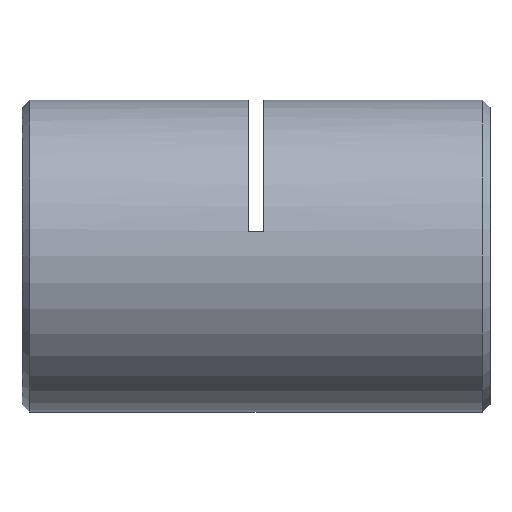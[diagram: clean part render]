
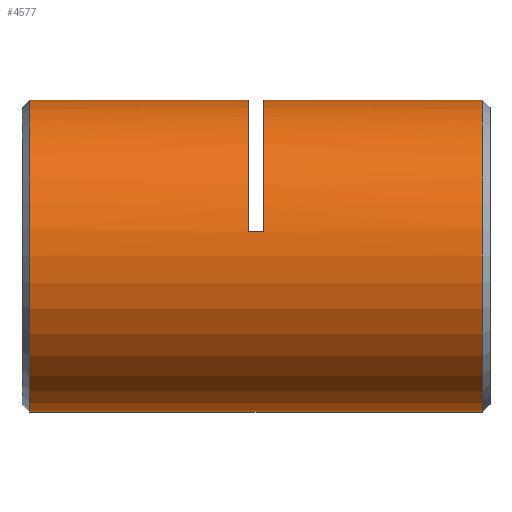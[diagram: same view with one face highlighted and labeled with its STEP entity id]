
A CAD part, left-side view. The second image highlights one B-rep face of the part: STEP entity #4577.
In plain terms, the highlighted cylindrical face has radius 8 mm (diameter 16 mm), a partial arc.
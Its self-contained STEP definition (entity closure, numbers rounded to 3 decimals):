
#2 = CARTESIAN_POINT ( 'NONE',  ( 0., 11.85, 0. ) ) ;
#10 = ORIENTED_EDGE ( 'NONE', *, *, #955, .F. ) ;
#74 = CARTESIAN_POINT ( 'NONE',  ( 0., 0.65, 8. ) ) ;
#112 = EDGE_LOOP ( 'NONE', ( #10, #3750, #2877, #5946, #1147, #558, #4513, #2271 ) ) ;
#228 = VECTOR ( 'NONE', #3043, 1000. ) ;
#379 = DIRECTION ( 'NONE',  ( 0., 1., 0. ) ) ;
#389 = LINE ( 'NONE', #3571, #6314 ) ;
#558 = ORIENTED_EDGE ( 'NONE', *, *, #2667, .T. ) ;
#766 = DIRECTION ( 'NONE',  ( 0., 0., -1. ) ) ;
#815 = CARTESIAN_POINT ( 'NONE',  ( 0., 0.65, -8. ) ) ;
#955 = EDGE_CURVE ( 'NONE', #3935, #2924, #389, .T. ) ;
#969 = DIRECTION ( 'NONE',  ( 0., 0., 1. ) ) ;
#1051 = CARTESIAN_POINT ( 'NONE',  ( 0., 0.25, 8. ) ) ;
#1080 = FACE_OUTER_BOUND ( 'NONE', #112, .T. ) ;
#1147 = ORIENTED_EDGE ( 'NONE', *, *, #6648, .T. ) ;
#1267 = LINE ( 'NONE', #1427, #228 ) ;
#1427 = CARTESIAN_POINT ( 'NONE',  ( 0., 0.25, 8. ) ) ;
#1486 = CARTESIAN_POINT ( 'NONE',  ( 0., 11.85, 8. ) ) ;
#1512 = CARTESIAN_POINT ( 'NONE',  ( -7.897, 11.85, 1.28 ) ) ;
#1530 = DIRECTION ( 'NONE',  ( 0., 0., 1. ) ) ;
#1557 = DIRECTION ( 'NONE',  ( 0., 1., 0. ) ) ;
#1867 = CARTESIAN_POINT ( 'NONE',  ( -7.897, 12.25, 1.28 ) ) ;
#2015 = CIRCLE ( 'NONE', #4806, 8. ) ;
#2042 = DIRECTION ( 'NONE',  ( 0., 1., 0. ) ) ;
#2196 = AXIS2_PLACEMENT_3D ( 'NONE', #5668, #4636, #1530 ) ;
#2271 = ORIENTED_EDGE ( 'NONE', *, *, #2899, .T. ) ;
#2305 = VECTOR ( 'NONE', #379, 1000. ) ;
#2367 = EDGE_CURVE ( 'NONE', #3032, #5586, #5120, .T. ) ;
#2557 = VERTEX_POINT ( 'NONE', #4081 ) ;
#2667 = EDGE_CURVE ( 'NONE', #4841, #5066, #6629, .T. ) ;
#2877 = ORIENTED_EDGE ( 'NONE', *, *, #2367, .T. ) ;
#2899 = EDGE_CURVE ( 'NONE', #2557, #2924, #4302, .T. ) ;
#2924 = VERTEX_POINT ( 'NONE', #4890 ) ;
#2961 = AXIS2_PLACEMENT_3D ( 'NONE', #5854, #5884, #766 ) ;
#3032 = VERTEX_POINT ( 'NONE', #74 ) ;
#3043 = DIRECTION ( 'NONE',  ( 0., 1., 0. ) ) ;
#3571 = CARTESIAN_POINT ( 'NONE',  ( 0., 0.25, -8. ) ) ;
#3572 = DIRECTION ( 'NONE',  ( 0., 1., 0. ) ) ;
#3585 = DIRECTION ( 'NONE',  ( 0., 0., 1. ) ) ;
#3750 = ORIENTED_EDGE ( 'NONE', *, *, #4148, .T. ) ;
#3790 = CARTESIAN_POINT ( 'NONE',  ( 0., 12.65, 0. ) ) ;
#3935 = VERTEX_POINT ( 'NONE', #815 ) ;
#4007 = LINE ( 'NONE', #1867, #2305 ) ;
#4081 = CARTESIAN_POINT ( 'NONE',  ( 0., 23.85, 8. ) ) ;
#4148 = EDGE_CURVE ( 'NONE', #3935, #3032, #4940, .T. ) ;
#4299 = DIRECTION ( 'NONE',  ( 0., 0., 1. ) ) ;
#4302 = CIRCLE ( 'NONE', #2961, 8. ) ;
#4513 = ORIENTED_EDGE ( 'NONE', *, *, #6214, .T. ) ;
#4577 = ADVANCED_FACE ( 'NONE', ( #1080 ), #5244, .T. ) ;
#4625 = DIRECTION ( 'NONE',  ( 0., 1., 0. ) ) ;
#4636 = DIRECTION ( 'NONE',  ( 0., 1., 0. ) ) ;
#4806 = AXIS2_PLACEMENT_3D ( 'NONE', #2, #1557, #3585 ) ;
#4841 = VERTEX_POINT ( 'NONE', #5774 ) ;
#4890 = CARTESIAN_POINT ( 'NONE',  ( 0., 23.85, -8. ) ) ;
#4940 = CIRCLE ( 'NONE', #2196, 8. ) ;
#5066 = VERTEX_POINT ( 'NONE', #6104 ) ;
#5120 = LINE ( 'NONE', #1051, #6311 ) ;
#5142 = EDGE_CURVE ( 'NONE', #5190, #5586, #2015, .T. ) ;
#5190 = VERTEX_POINT ( 'NONE', #1512 ) ;
#5244 = CYLINDRICAL_SURFACE ( 'NONE', #5313, 8. ) ;
#5313 = AXIS2_PLACEMENT_3D ( 'NONE', #6653, #3572, #969 ) ;
#5586 = VERTEX_POINT ( 'NONE', #1486 ) ;
#5668 = CARTESIAN_POINT ( 'NONE',  ( 0., 0.65, 0. ) ) ;
#5774 = CARTESIAN_POINT ( 'NONE',  ( -7.897, 12.65, 1.28 ) ) ;
#5854 = CARTESIAN_POINT ( 'NONE',  ( 0., 23.85, 0. ) ) ;
#5884 = DIRECTION ( 'NONE',  ( 0., -1., 0. ) ) ;
#5946 = ORIENTED_EDGE ( 'NONE', *, *, #5142, .F. ) ;
#5974 = AXIS2_PLACEMENT_3D ( 'NONE', #3790, #6356, #4299 ) ;
#6104 = CARTESIAN_POINT ( 'NONE',  ( 0., 12.65, 8. ) ) ;
#6214 = EDGE_CURVE ( 'NONE', #5066, #2557, #1267, .T. ) ;
#6311 = VECTOR ( 'NONE', #2042, 1000. ) ;
#6314 = VECTOR ( 'NONE', #4625, 1000. ) ;
#6356 = DIRECTION ( 'NONE',  ( 0., 1., 0. ) ) ;
#6629 = CIRCLE ( 'NONE', #5974, 8. ) ;
#6648 = EDGE_CURVE ( 'NONE', #5190, #4841, #4007, .T. ) ;
#6653 = CARTESIAN_POINT ( 'NONE',  ( 0., 0.25, 0. ) ) ;
